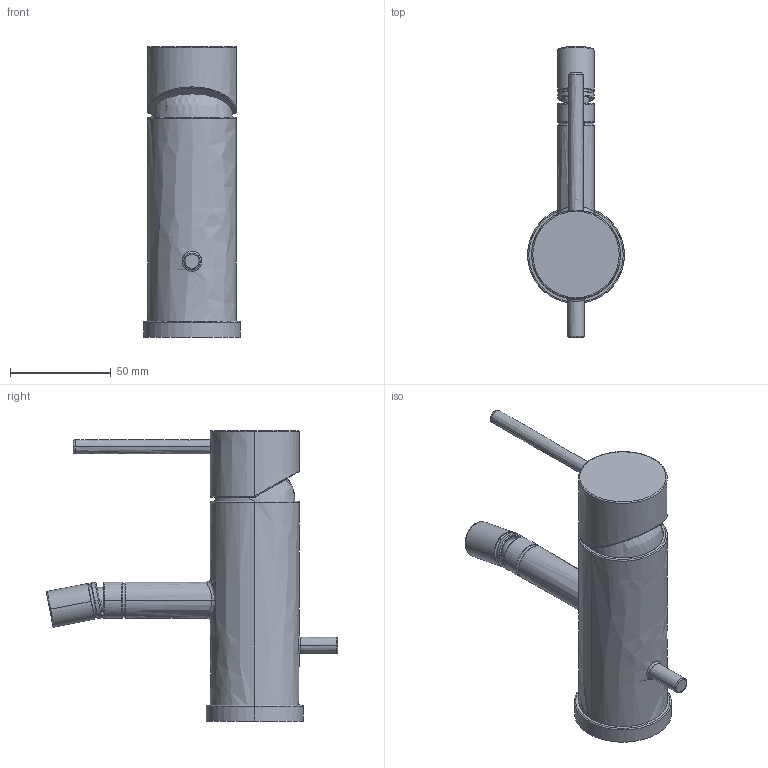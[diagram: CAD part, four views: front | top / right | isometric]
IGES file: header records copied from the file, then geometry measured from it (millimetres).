
Start section: START RECORD GO HERE.
Global section: file name: 5444_3D.igs; native system: DASSAULT SYSTEMES CATIA V5 R19 - www.3ds.com; preprocessor: CATIA Version 5 Release 19 SP 5 ; author: gioge; organization: LAPTOP-G94B6G74; date: 20201201.134720; units: millimetre
Bounding box: 48 x 144.21 x 144 mm (x, y, z)
Surface area: 36488.7 mm2 (no closed solid volume)
Topology: 0 solids, 0 shells, 671 faces, 3852 edges, 3844 vertices
Faces by surface type: plane 544, revolution 118, bspline 9
